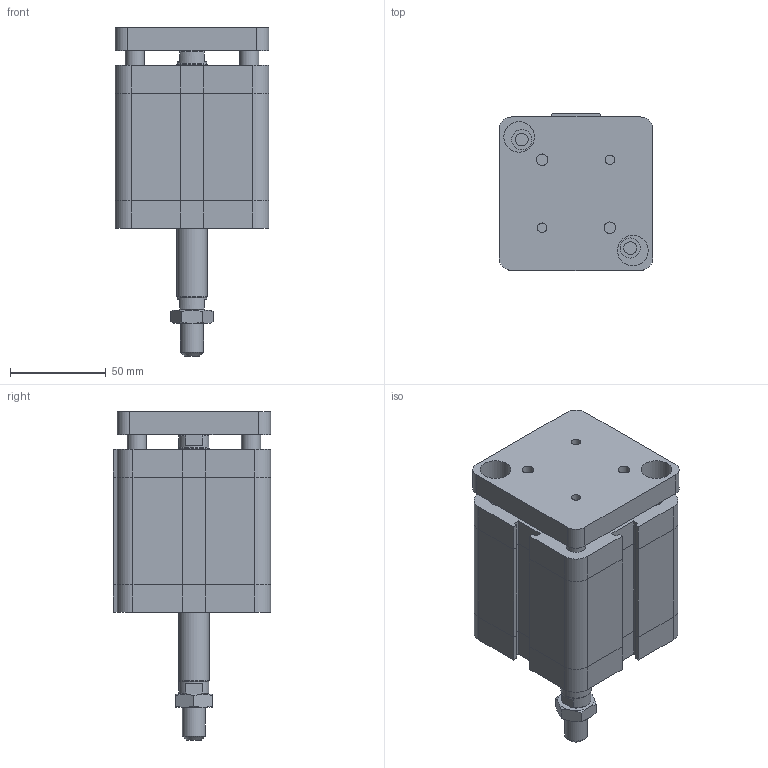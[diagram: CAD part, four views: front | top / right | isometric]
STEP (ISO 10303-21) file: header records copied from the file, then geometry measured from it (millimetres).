
FILE_DESCRIPTION((''),'2;1');
FILE_NAME('I:\Area Tecnica\Disegni\VARIE-3D\Componenti\EUROPE\15##_###_####_09_#\1561_63_0035_09_1.iam.stp','2009-04-20T15:39:08',(''),(''),'Autodesk Inventor 2009','Autodesk Inventor 2009','');
FILE_SCHEMA(('AUTOMOTIVE_DESIGN { 1 0 10303 214 1 1 1 1 }'));
Length unit declared in the file: millimetre
Products named in the file (4): 1561_63_0035_09_1; 1561_63_0035_08_1_C; 1561_63_0035_09_1_SA; DBFM12
Assembly tree (3 placements, depth 2):
  1561_63_0035_09_1
    1561_63_0035_08_1_C
    1561_63_0035_09_1_SA
    DBFM12
Bounding box: 80 x 82 x 171 mm (x, y, z)
Volume: 607635.8 mm3; surface area: 81671 mm2
Topology: 3 solids, 3 shells, 209 faces, 470 edges, 287 vertices
Faces by surface type: plane 120, bspline 45, cylinder 23, cone 21
Full cylindrical faces by diameter (mm): 10 x2, 10.8 x1, 12 x1, 15.6 x2, 16 x1
Entity records: 5963 total; most frequent: CARTESIAN_POINT 1453, DIRECTION 838, ORIENTED_EDGE 834, EDGE_CURVE 417, AXIS2_PLACEMENT_3D 282, EDGE_LOOP 282, VECTOR 274, LINE 274
